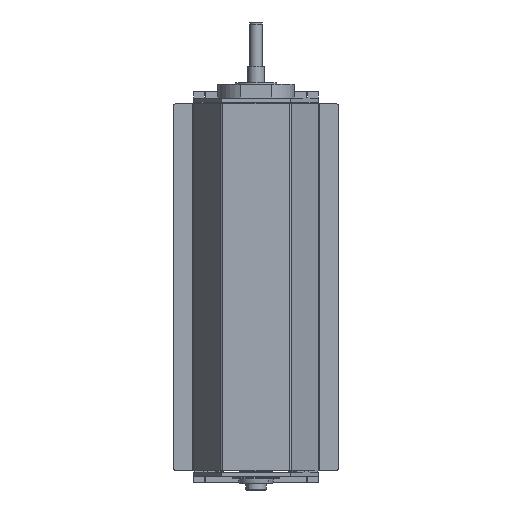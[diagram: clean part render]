
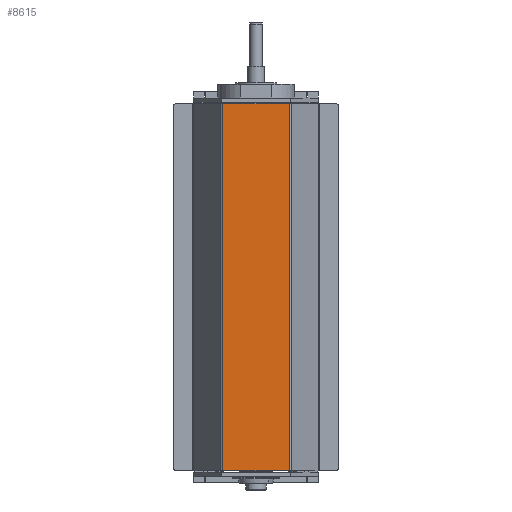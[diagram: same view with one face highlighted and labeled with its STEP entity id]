
A CAD part, front view. The second image highlights one B-rep face of the part: STEP entity #8615.
In plain terms, the highlighted planar face has unit normal (0, -1, 0).
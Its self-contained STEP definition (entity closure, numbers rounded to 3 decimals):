
#1220 = LINE ( 'NONE', #14163, #1514 ) ;
#1514 = VECTOR ( 'NONE', #5156, 1000. ) ;
#1667 = ORIENTED_EDGE ( 'NONE', *, *, #17922, .T. ) ;
#1761 = VECTOR ( 'NONE', #4913, 1000. ) ;
#1765 = DIRECTION ( 'NONE',  ( 0., 0., -1. ) ) ;
#2908 = ORIENTED_EDGE ( 'NONE', *, *, #22572, .T. ) ;
#3362 = CARTESIAN_POINT ( 'NONE',  ( 48.268, 0., 554.779 ) ) ;
#3631 = FACE_OUTER_BOUND ( 'NONE', #4121, .T. ) ;
#4121 = EDGE_LOOP ( 'NONE', ( #19291, #2908, #1667, #18138 ) ) ;
#4307 = VECTOR ( 'NONE', #22930, 1000. ) ;
#4913 = DIRECTION ( 'NONE',  ( 0., 0., -1. ) ) ;
#5156 = DIRECTION ( 'NONE',  ( -1., 0., 0. ) ) ;
#5470 = CARTESIAN_POINT ( 'NONE',  ( -50., 0., 554.779 ) ) ;
#5557 = PLANE ( 'NONE',  #11167 ) ;
#5594 = CARTESIAN_POINT ( 'NONE',  ( -48.268, 0., 554.779 ) ) ;
#5643 = VERTEX_POINT ( 'NONE', #22517 ) ;
#7312 = CARTESIAN_POINT ( 'NONE',  ( 48.268, 0., -265.5 ) ) ;
#8615 = ADVANCED_FACE ( 'NONE', ( #3631 ), #5557, .F. ) ;
#9087 = LINE ( 'NONE', #17564, #4307 ) ;
#9875 = CARTESIAN_POINT ( 'NONE',  ( -48.268, 0., -265.5 ) ) ;
#10996 = VERTEX_POINT ( 'NONE', #12406 ) ;
#11167 = AXIS2_PLACEMENT_3D ( 'NONE', #5470, #16130, #19902 ) ;
#12153 = LINE ( 'NONE', #3362, #1761 ) ;
#12406 = CARTESIAN_POINT ( 'NONE',  ( -48.268, 0., 265.5 ) ) ;
#12913 = EDGE_CURVE ( 'NONE', #5643, #19147, #12153, .T. ) ;
#13965 = VERTEX_POINT ( 'NONE', #9875 ) ;
#14163 = CARTESIAN_POINT ( 'NONE',  ( -50., 0., 265.5 ) ) ;
#16130 = DIRECTION ( 'NONE',  ( 0., 1., 0. ) ) ;
#17564 = CARTESIAN_POINT ( 'NONE',  ( -50., 0., -265.5 ) ) ;
#17726 = LINE ( 'NONE', #5594, #21669 ) ;
#17922 = EDGE_CURVE ( 'NONE', #13965, #19147, #9087, .T. ) ;
#18138 = ORIENTED_EDGE ( 'NONE', *, *, #12913, .F. ) ;
#19147 = VERTEX_POINT ( 'NONE', #7312 ) ;
#19291 = ORIENTED_EDGE ( 'NONE', *, *, #21567, .T. ) ;
#19902 = DIRECTION ( 'NONE',  ( -1., 0., 0. ) ) ;
#21567 = EDGE_CURVE ( 'NONE', #5643, #10996, #1220, .T. ) ;
#21669 = VECTOR ( 'NONE', #1765, 1000. ) ;
#22517 = CARTESIAN_POINT ( 'NONE',  ( 48.268, 0., 265.5 ) ) ;
#22572 = EDGE_CURVE ( 'NONE', #10996, #13965, #17726, .T. ) ;
#22930 = DIRECTION ( 'NONE',  ( 1., 0., 0. ) ) ;
